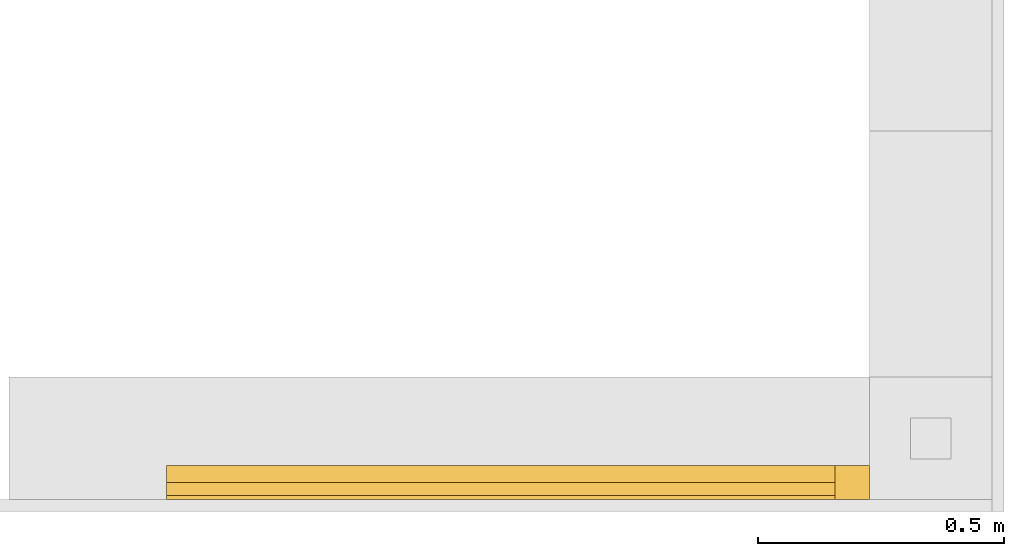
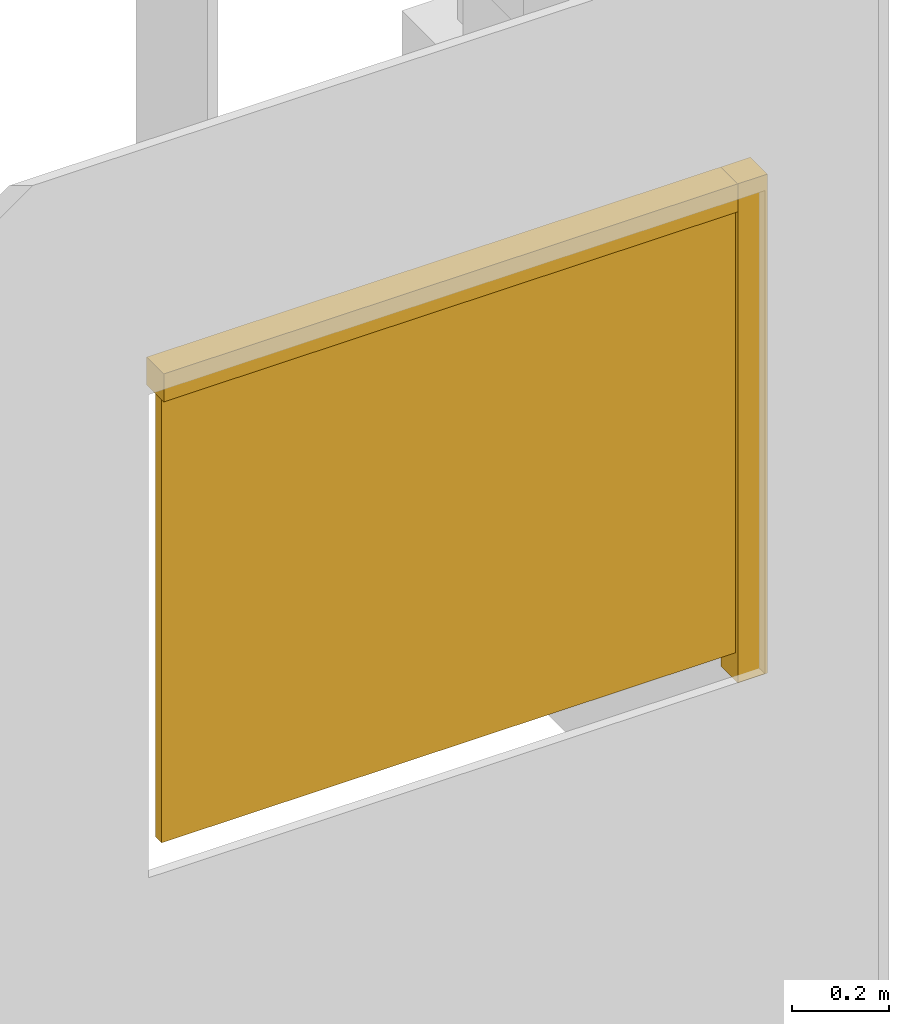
# One storey, part 5 of 5: 3 windows.
"""IFC4 building model written with IfcOpenShell, lengths in centimetres."""

from ifc_helpers import new_model, entity, si_unit, converted_unit, direction, frame, origin, place, context, subcontext, project, spatial, indexed_curve, outline, extrude, source, transform, mapped, material, type_object, type_shapes, element, save


model = new_model("IFC4")

# Units and contexts
model_context = context("Model", 3, precision=0.001, world=origin(), true_north=direction((0.0, 1.0)))
body_context = subcontext(model_context, "Body", "Model", "MODEL_VIEW")
ifc_project = project(units=[si_unit("LENGTHUNIT", "METRE", prefix="CENTI"), si_unit("AREAUNIT", "SQUARE_METRE"), si_unit("VOLUMEUNIT", "CUBIC_METRE"), converted_unit("PLANEANGLEUNIT", "DEGREE", entity("IfcPlaneAngleMeasure", 0.017453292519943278), si_unit("PLANEANGLEUNIT", "RADIAN"), dimensions=[0, 0, 0, 0, 0, 0, 0])], contexts=[model_context])

# Site, building, storey
site_placement = place(None, origin())
site = spatial("IfcSite", under=ifc_project, at=site_placement, Name="Default", CompositionType="ELEMENT")
building_placement = place(site_placement, origin())
building = spatial("IfcBuilding", under=site, at=building_placement, CompositionType="ELEMENT")
storey_placement = place(building_placement, frame((0.0, 0.0, -4.0)))
storey = spatial("IfcBuildingStorey", under=building, at=storey_placement, Name="L00__ABOVE Slab", CompositionType="ELEMENT", Elevation=-4.000000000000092)

# Windows
ifc_material_1 = material(Name="_WINDOW__Glazing", Category="Unassigned")
window_type_1 = type_object("IfcWindowType", Name="Windows : wdw_s__PANEL__Fixed__wp : Glazed", PartitioningType="NOTDEFINED", PredefinedType="WINDOW", material=ifc_material_1)
shared_shape_1 = source(origin(), body_context, "Body", "SweptSolid", [
    extrude(outline(indexed_curve([(-68.00000000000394, -1.3000000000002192), (68.00000000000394, -1.2999999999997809), (68.00000000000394, 1.3000000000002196), (-68.00000000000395, 1.2999999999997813), (-68.00000000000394, -1.3000000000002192)], self_intersect=False)), frame((68.0, 2.2000000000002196, 0.0)), (0.0, 0.0, 1.0), 111.00000000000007),
])
type_shapes(window_type_1, [shared_shape_1])
window_1_placement = place(storey_placement, frame((3013.8289147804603, 2128.5200309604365, 107.0)))
element("IfcWindow", 1, at=window_1_placement, inside=storey, type_object=window_type_1, material=ifc_material_1, Name="Windows : wdw_s__PANEL__Fixed__wp : Glazed", OverallHeight=7.0000000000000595, OverallWidth=136.00000000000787, PartitioningType="NOTDEFINED", PredefinedType="WINDOW", context=body_context, shape_type="MappedRepresentation", body=[
    mapped(shared_shape_1, transform((0.0, 0.0, 0.0), scale=1.0)),
])
ifc_material_2 = material(Name="_WINDOW__Profile__Aluminium", Category="Miscellaneous")
window_type_2 = type_object("IfcWindowType", Name="Windows : wdw_s__PROFILE__Frame__wp : Wood", PartitioningType="NOTDEFINED", PredefinedType="WINDOW", material=ifc_material_2)
shared_shape_2 = source(origin(), body_context, "Body", "SweptSolid", [
    extrude(outline(indexed_curve([(-3.5000000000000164, -3.4999999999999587), (3.5000000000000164, -3.4999999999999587), (3.5000000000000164, 3.4999999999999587), (-3.5000000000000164, 3.4999999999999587), (-3.5000000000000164, -3.4999999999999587)], self_intersect=False)), frame((3.5000000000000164, -3.4999999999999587, 0.0)), (0.0, 0.0, 1.0), 125.0),
])
type_shapes(window_type_2, [shared_shape_2])
window_2_placement = place(storey_placement, frame((3156.8289147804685, 2128.520030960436, 100.0), z_axis=(0.0, 0.0, 1.0), x_axis=(-1.0, 0.0, 0.0)))
element("IfcWindow", 2, at=window_2_placement, inside=storey, type_object=window_type_2, material=ifc_material_2, Name="Windows : wdw_s__PROFILE__Frame__wp : Wood", OverallHeight=28.355733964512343, OverallWidth=7.000000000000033, PartitioningType="NOTDEFINED", PredefinedType="WINDOW", context=body_context, shape_type="MappedRepresentation", body=[
    mapped(shared_shape_2, transform((0.0, 0.0, 0.0), scale=1.0)),
])
window_type_3 = type_object("IfcWindowType", Name="Windows : wdw_s__PROFILE__Frame__wp : Wood", PartitioningType="NOTDEFINED", PredefinedType="WINDOW", material=ifc_material_2)
shared_shape_3 = source(origin(), body_context, "Body", "SweptSolid", [
    extrude(outline(indexed_curve([(-3.5000000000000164, -3.4999999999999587), (3.5000000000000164, -3.4999999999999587), (3.5000000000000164, 3.4999999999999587), (-3.5000000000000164, 3.4999999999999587), (-3.5000000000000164, -3.4999999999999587)], self_intersect=False)), frame((3.5000000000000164, -3.4999999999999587, 0.0)), (0.0, 0.0, 1.0), 136.0000000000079),
])
type_shapes(window_type_3, [shared_shape_3])
window_3_placement = place(storey_placement, frame((3149.828914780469, 2128.520030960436, 225.0), z_axis=(-1.0, 0.0, 0.0), x_axis=(0.0, 0.0, -1.0)))
element("IfcWindow", 3, at=window_3_placement, inside=storey, type_object=window_type_3, material=ifc_material_2, Name="Windows : wdw_s__PROFILE__Frame__wp : Wood", OverallHeight=28.355733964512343, OverallWidth=7.000000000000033, PartitioningType="NOTDEFINED", PredefinedType="WINDOW", context=body_context, shape_type="MappedRepresentation", body=[
    mapped(shared_shape_3, transform((0.0, 0.0, 0.0), scale=1.0)),
])

save(model, "model.ifc")
